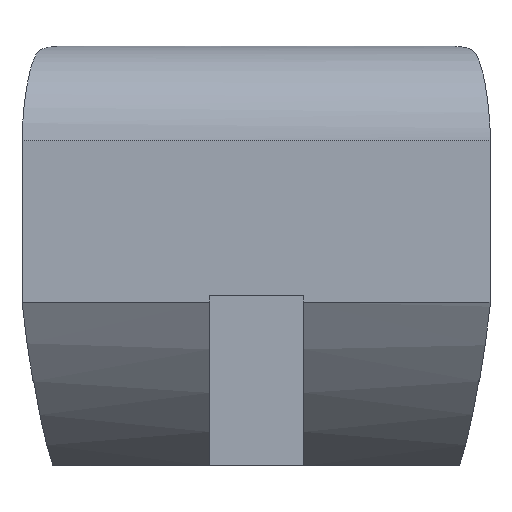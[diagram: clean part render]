
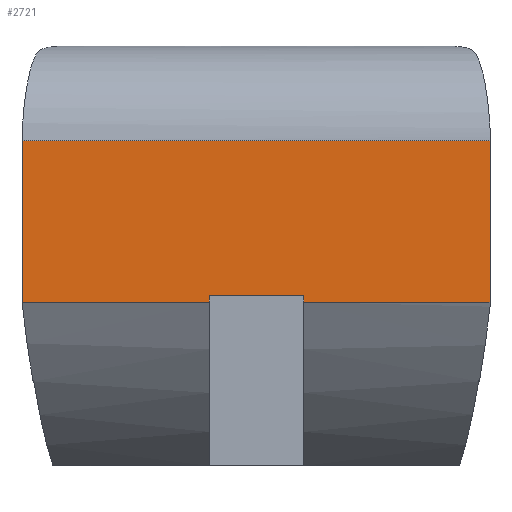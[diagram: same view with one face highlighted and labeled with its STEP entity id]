
A CAD part, front view. The second image highlights one B-rep face of the part: STEP entity #2721.
In plain terms, the highlighted planar face has unit normal (0, -1, 0.002).
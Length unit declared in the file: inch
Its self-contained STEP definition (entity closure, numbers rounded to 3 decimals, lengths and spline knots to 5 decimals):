
#18 = DIRECTION ( 'NONE',  ( 0., 0.002, 1. ) ) ;
#65 = CARTESIAN_POINT ( 'NONE',  ( -0.24685, -1.64984, 1.24575 ) ) ;
#69 = CARTESIAN_POINT ( 'NONE',  ( 1.235, -1.64984, 1.24575 ) ) ;
#171 = ORIENTED_EDGE ( 'NONE', *, *, #2108, .T. ) ;
#196 = ORIENTED_EDGE ( 'NONE', *, *, #1692, .F. ) ;
#226 = LINE ( 'NONE', #1419, #1446 ) ;
#275 = DIRECTION ( 'NONE',  ( 0., 1., -0.002 ) ) ;
#423 = CARTESIAN_POINT ( 'NONE',  ( 0.25315, -1.64984, 1.24575 ) ) ;
#426 = VERTEX_POINT ( 'NONE', #1525 ) ;
#442 = ORIENTED_EDGE ( 'NONE', *, *, #966, .F. ) ;
#487 = DIRECTION ( 'NONE',  ( -1., 0., 0. ) ) ;
#506 = CARTESIAN_POINT ( 'NONE',  ( -0.24685, -1.64984, 1.24575 ) ) ;
#517 = VERTEX_POINT ( 'NONE', #1538 ) ;
#577 = EDGE_CURVE ( 'NONE', #1394, #426, #2691, .T. ) ;
#620 = AXIS2_PLACEMENT_3D ( 'NONE', #69, #275, #18 ) ;
#670 = ORIENTED_EDGE ( 'NONE', *, *, #577, .F. ) ;
#680 = EDGE_LOOP ( 'NONE', ( #196, #2548, #670, #171, #442, #1173, #1044, #2250 ) ) ;
#690 = VERTEX_POINT ( 'NONE', #423 ) ;
#770 = DIRECTION ( 'NONE',  ( 0., -0.002, -1. ) ) ;
#871 = VECTOR ( 'NONE', #487, 39.37008 ) ;
#884 = CARTESIAN_POINT ( 'NONE',  ( 1.235, -1.64984, 1.24575 ) ) ;
#887 = LINE ( 'NONE', #1586, #1489 ) ;
#894 = VECTOR ( 'NONE', #2337, 39.37008 ) ;
#946 = CARTESIAN_POINT ( 'NONE',  ( 0.25315, -1.64977, 1.28102 ) ) ;
#959 = VERTEX_POINT ( 'NONE', #1817 ) ;
#966 = EDGE_CURVE ( 'NONE', #517, #690, #2730, .T. ) ;
#971 = VECTOR ( 'NONE', #2909, 39.37008 ) ;
#1012 = VERTEX_POINT ( 'NONE', #65 ) ;
#1044 = ORIENTED_EDGE ( 'NONE', *, *, #1073, .T. ) ;
#1073 = EDGE_CURVE ( 'NONE', #1135, #1418, #1806, .T. ) ;
#1135 = VERTEX_POINT ( 'NONE', #1902 ) ;
#1173 = ORIENTED_EDGE ( 'NONE', *, *, #1190, .F. ) ;
#1190 = EDGE_CURVE ( 'NONE', #1135, #517, #2391, .T. ) ;
#1208 = CARTESIAN_POINT ( 'NONE',  ( -1.235, -1.64819, 2.09795 ) ) ;
#1275 = VECTOR ( 'NONE', #770, 39.37008 ) ;
#1360 = VECTOR ( 'NONE', #2503, 39.37008 ) ;
#1394 = VERTEX_POINT ( 'NONE', #946 ) ;
#1413 = PLANE ( 'NONE',  #620 ) ;
#1418 = VERTEX_POINT ( 'NONE', #1208 ) ;
#1419 = CARTESIAN_POINT ( 'NONE',  ( -1.235, -1.64984, 1.24575 ) ) ;
#1446 = VECTOR ( 'NONE', #1845, 39.37008 ) ;
#1461 = CARTESIAN_POINT ( 'NONE',  ( 1.235, -1.64984, 1.24575 ) ) ;
#1489 = VECTOR ( 'NONE', #2289, 39.37008 ) ;
#1525 = CARTESIAN_POINT ( 'NONE',  ( -0.24685, -1.64977, 1.28102 ) ) ;
#1538 = CARTESIAN_POINT ( 'NONE',  ( 1.235, -1.64984, 1.24575 ) ) ;
#1586 = CARTESIAN_POINT ( 'NONE',  ( 0.25315, -1.64984, 1.24575 ) ) ;
#1590 = CARTESIAN_POINT ( 'NONE',  ( 1.235, -1.64984, 1.24575 ) ) ;
#1692 = EDGE_CURVE ( 'NONE', #1012, #959, #2941, .T. ) ;
#1806 = LINE ( 'NONE', #2059, #871 ) ;
#1817 = CARTESIAN_POINT ( 'NONE',  ( -1.235, -1.64984, 1.24575 ) ) ;
#1845 = DIRECTION ( 'NONE',  ( 0., -0.002, -1. ) ) ;
#1902 = CARTESIAN_POINT ( 'NONE',  ( 1.235, -1.64819, 2.09795 ) ) ;
#2059 = CARTESIAN_POINT ( 'NONE',  ( 1.235, -1.64819, 2.09795 ) ) ;
#2088 = EDGE_CURVE ( 'NONE', #1418, #959, #226, .T. ) ;
#2108 = EDGE_CURVE ( 'NONE', #1394, #690, #887, .T. ) ;
#2115 = LINE ( 'NONE', #506, #894 ) ;
#2250 = ORIENTED_EDGE ( 'NONE', *, *, #2088, .T. ) ;
#2289 = DIRECTION ( 'NONE',  ( 0., -0.002, -1. ) ) ;
#2297 = CARTESIAN_POINT ( 'NONE',  ( 1.235, -1.64977, 1.28102 ) ) ;
#2320 = FACE_OUTER_BOUND ( 'NONE', #680, .T. ) ;
#2337 = DIRECTION ( 'NONE',  ( 0., 0.002, 1. ) ) ;
#2391 = LINE ( 'NONE', #1461, #1275 ) ;
#2503 = DIRECTION ( 'NONE',  ( -1., 0., 0. ) ) ;
#2521 = EDGE_CURVE ( 'NONE', #1012, #426, #2115, .T. ) ;
#2548 = ORIENTED_EDGE ( 'NONE', *, *, #2521, .T. ) ;
#2579 = VECTOR ( 'NONE', #2906, 39.37008 ) ;
#2691 = LINE ( 'NONE', #2297, #2579 ) ;
#2721 = ADVANCED_FACE ( 'NONE', ( #2320 ), #1413, .F. ) ;
#2730 = LINE ( 'NONE', #1590, #1360 ) ;
#2906 = DIRECTION ( 'NONE',  ( -1., 0., 0. ) ) ;
#2909 = DIRECTION ( 'NONE',  ( -1., 0., 0. ) ) ;
#2941 = LINE ( 'NONE', #884, #971 ) ;
